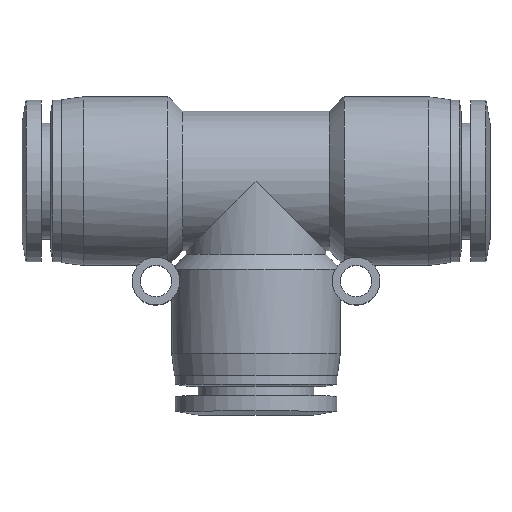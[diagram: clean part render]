
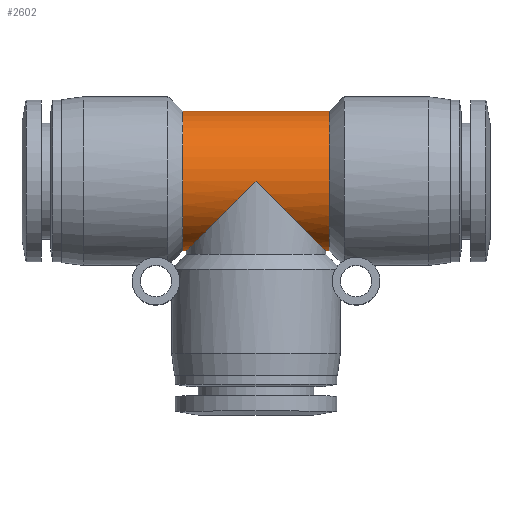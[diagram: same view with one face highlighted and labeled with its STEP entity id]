
A CAD part, top view. The second image highlights one B-rep face of the part: STEP entity #2602.
In plain terms, the highlighted cylindrical face has radius 9.5 mm (diameter 19 mm), a partial arc.
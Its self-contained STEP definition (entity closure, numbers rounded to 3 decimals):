
#32 =( BOUNDED_CURVE ( )  B_SPLINE_CURVE ( 3, ( #1804, #727, #1788, #2637 ),
 .UNSPECIFIED., .F., .F. ) 
 B_SPLINE_CURVE_WITH_KNOTS ( ( 4, 4 ),
 ( 1.571, 3.142 ),
 .UNSPECIFIED. ) 
 CURVE ( )  GEOMETRIC_REPRESENTATION_ITEM ( )  RATIONAL_B_SPLINE_CURVE ( ( 1., 0.805, 0.805, 1. ) ) 
 REPRESENTATION_ITEM ( '' )  );
#41 = DIRECTION ( 'NONE',  ( 0., 1., 0. ) ) ;
#47 = CARTESIAN_POINT ( 'NONE',  ( -5.565, -5.565, 9.5 ) ) ;
#57 = DIRECTION ( 'NONE',  ( 1., 0., 0. ) ) ;
#249 = VECTOR ( 'NONE', #1089, 1000. ) ;
#262 = CYLINDRICAL_SURFACE ( 'NONE', #1869, 9.5 ) ;
#377 = DIRECTION ( 'NONE',  ( 1., 0., 0. ) ) ;
#381 = EDGE_CURVE ( 'NONE', #1364, #1198, #865, .T. ) ;
#521 = VERTEX_POINT ( 'NONE', #1897 ) ;
#523 = EDGE_CURVE ( 'NONE', #521, #3242, #539, .T. ) ;
#539 = LINE ( 'NONE', #3092, #700 ) ;
#576 = CARTESIAN_POINT ( 'NONE',  ( 0., 0., 9.5 ) ) ;
#613 = CARTESIAN_POINT ( 'NONE',  ( -10., 0., 0. ) ) ;
#618 = CARTESIAN_POINT ( 'NONE',  ( 5., -9.5, 0. ) ) ;
#671 = CARTESIAN_POINT ( 'NONE',  ( 9.5, -9.5, 0. ) ) ;
#700 = VECTOR ( 'NONE', #3596, 1000. ) ;
#727 = CARTESIAN_POINT ( 'NONE',  ( 5.565, -5.565, 9.5 ) ) ;
#761 = VERTEX_POINT ( 'NONE', #881 ) ;
#865 = LINE ( 'NONE', #618, #1334 ) ;
#874 = CARTESIAN_POINT ( 'NONE',  ( -10., -9.5, 0. ) ) ;
#880 =( BOUNDED_CURVE ( )  B_SPLINE_CURVE ( 3, ( #1414, #2010, #47, #2594 ),
 .UNSPECIFIED., .F., .F. ) 
 B_SPLINE_CURVE_WITH_KNOTS ( ( 4, 4 ),
 ( 0., 1.571 ),
 .UNSPECIFIED. ) 
 CURVE ( )  GEOMETRIC_REPRESENTATION_ITEM ( )  RATIONAL_B_SPLINE_CURVE ( ( 1., 0.805, 0.805, 1. ) ) 
 REPRESENTATION_ITEM ( '' )  );
#881 = CARTESIAN_POINT ( 'NONE',  ( 10., -9.5, 0. ) ) ;
#929 = CIRCLE ( 'NONE', #3202, 9.5 ) ;
#971 = ORIENTED_EDGE ( 'NONE', *, *, #2922, .T. ) ;
#1060 = EDGE_CURVE ( 'NONE', #1639, #3476, #32, .T. ) ;
#1089 = DIRECTION ( 'NONE',  ( 1., 0., 0. ) ) ;
#1127 = DIRECTION ( 'NONE',  ( 0., 1., 0. ) ) ;
#1198 = VERTEX_POINT ( 'NONE', #2466 ) ;
#1305 = FACE_OUTER_BOUND ( 'NONE', #2963, .T. ) ;
#1334 = VECTOR ( 'NONE', #2842, 1000. ) ;
#1364 = VERTEX_POINT ( 'NONE', #874 ) ;
#1365 = LINE ( 'NONE', #2484, #249 ) ;
#1385 = EDGE_CURVE ( 'NONE', #3242, #761, #929, .T. ) ;
#1414 = CARTESIAN_POINT ( 'NONE',  ( -9.5, -9.5, 0. ) ) ;
#1416 = CARTESIAN_POINT ( 'NONE',  ( 10., 0., 0. ) ) ;
#1629 = CIRCLE ( 'NONE', #3164, 9.5 ) ;
#1639 = VERTEX_POINT ( 'NONE', #576 ) ;
#1664 = ORIENTED_EDGE ( 'NONE', *, *, #381, .T. ) ;
#1781 = ORIENTED_EDGE ( 'NONE', *, *, #1060, .T. ) ;
#1788 = CARTESIAN_POINT ( 'NONE',  ( 9.5, -9.5, 5.565 ) ) ;
#1804 = CARTESIAN_POINT ( 'NONE',  ( 0., 0., 9.5 ) ) ;
#1833 = CARTESIAN_POINT ( 'NONE',  ( 10., 9.5, 0. ) ) ;
#1854 = DIRECTION ( 'NONE',  ( 1., 0., 0. ) ) ;
#1869 = AXIS2_PLACEMENT_3D ( 'NONE', #2720, #1854, #1874 ) ;
#1874 = DIRECTION ( 'NONE',  ( 0., 1., 0. ) ) ;
#1897 = CARTESIAN_POINT ( 'NONE',  ( -10., 9.5, 0. ) ) ;
#2010 = CARTESIAN_POINT ( 'NONE',  ( -9.5, -9.5, 5.565 ) ) ;
#2386 = ORIENTED_EDGE ( 'NONE', *, *, #3430, .T. ) ;
#2466 = CARTESIAN_POINT ( 'NONE',  ( -9.5, -9.5, 0. ) ) ;
#2484 = CARTESIAN_POINT ( 'NONE',  ( 5., -9.5, 0. ) ) ;
#2561 = ORIENTED_EDGE ( 'NONE', *, *, #1385, .F. ) ;
#2594 = CARTESIAN_POINT ( 'NONE',  ( 0., 0., 9.5 ) ) ;
#2602 = ADVANCED_FACE ( 'NONE', ( #1305 ), #262, .T. ) ;
#2637 = CARTESIAN_POINT ( 'NONE',  ( 9.5, -9.5, 0. ) ) ;
#2644 = EDGE_CURVE ( 'NONE', #1198, #1639, #880, .T. ) ;
#2714 = ORIENTED_EDGE ( 'NONE', *, *, #523, .F. ) ;
#2720 = CARTESIAN_POINT ( 'NONE',  ( 5., 0., 0. ) ) ;
#2842 = DIRECTION ( 'NONE',  ( 1., 0., 0. ) ) ;
#2922 = EDGE_CURVE ( 'NONE', #3476, #761, #1365, .T. ) ;
#2963 = EDGE_LOOP ( 'NONE', ( #2386, #1664, #3584, #1781, #971, #2561, #2714 ) ) ;
#3092 = CARTESIAN_POINT ( 'NONE',  ( 5., 9.5, 0. ) ) ;
#3164 = AXIS2_PLACEMENT_3D ( 'NONE', #613, #57, #41 ) ;
#3202 = AXIS2_PLACEMENT_3D ( 'NONE', #1416, #377, #1127 ) ;
#3242 = VERTEX_POINT ( 'NONE', #1833 ) ;
#3430 = EDGE_CURVE ( 'NONE', #521, #1364, #1629, .T. ) ;
#3476 = VERTEX_POINT ( 'NONE', #671 ) ;
#3584 = ORIENTED_EDGE ( 'NONE', *, *, #2644, .T. ) ;
#3596 = DIRECTION ( 'NONE',  ( 1., 0., 0. ) ) ;
